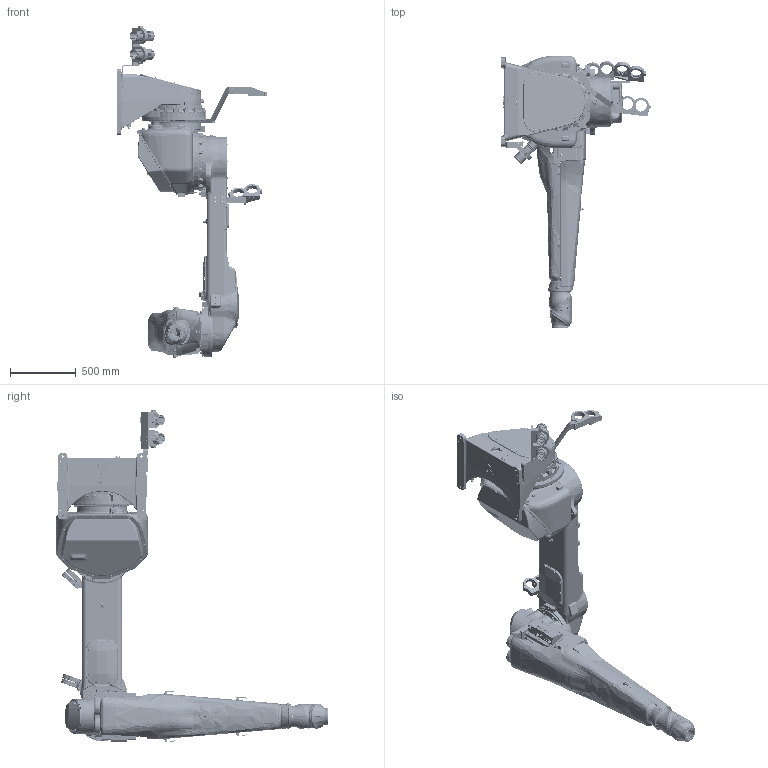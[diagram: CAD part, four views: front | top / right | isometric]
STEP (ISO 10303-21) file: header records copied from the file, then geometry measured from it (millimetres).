
FILE_DESCRIPTION (( 'STEP AP203' ), '1' );
FILE_NAME ('3HNA015450-001.STEP', '2015-04-29T12:28:33', ( 'ABB' ), ( 'ABB' ), 'SwSTEP 2.0', 'SolidWorks 2014', '' );
FILE_SCHEMA (( 'CONFIG_CONTROL_DESIGN' ));
Length unit declared in the file: millimetre
Products named in the file (120): 3HNP 00934-1; 3HNP 04680-1_M6x12; 3HNA014248-001; 3HNA015048-001; p019491; 3HNP 04720-1_M6x16; 3HNA015848-001_LEFT; 3HNA007769-001; 3HNP 04742-1_M8X45; 3HNP 04722-1_M6x25; 3HNA014328-001; 3HNA014646-001; 3HNP 04858-1_M8x10; 3HNA019763-001; 3HNA013719-001; 3HNA023104-001; 3HNA015111-001; 3HNA019794-001; 3HNA019856-001; m064551; 3HNA014264-001; 3HNA015848-001; p008311; 3HNP 04721-1_M6x20; 3HNA022614-001; 3HNA020325-001; 3HNA014686-001; 3HNA015449-001_KONFIG A; 3HNA020746-001; 3HNA014616-001; 3HNA015469-001; 3HNA008125-001; 3HNA020327-001; 3HNP 04834-1; p041951; 3HNP 04844-1_M3x5; 3HNA014783-001; 3HNA007682-001; 3HNA015869-001; 3HNA022611-001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
Assembly tree (265 placements, depth 5):
  3HNA015450-001
    3HNA015449-001_KONFIG A
      3HNA015111-001
      3HNA008125-001
      3HNA015429-001
      3HNP 04682-1_M6x20  x9
      3HNA008286-001
      M014331
      3HNA015504-001
      p001811
      3HNP 04680-1_M6x12  x3
      3HNA023104-001
      3HNA015469-001
      3HNP 04922-1  x4
      3HNP 04763-1_M10x55  x4
      3HNP 04785-1_M16x50  x12
      p002381  x4
      p002391  x4
      3HNA003308-001_M12x1,5
      3HNP 04858-1_M8x10  x4
    3HNM 13622-1
    3HNA008449-001
    3HNA015378-001
    3HNA015708-001_M16x130  x3
    M115531  x2
    3HNA015869-001
      3HNA015866-001
      M115531
      3HNP 04742-1_M8X45  x2
      3HNP 04721-1_M6x20
    3HNA015862-001
      3HNA015852-001
      M115531
      3HNP 04721-1_M6x20
      3HNP 04742-1_M8X45  x2
    3HNA015848-001_LEFT
      3HNA015843-001
      M115531
      3HNP 04721-1_M6x20
      3HNA003474-001_M12x65  x2
      p000841
    3HNA015848-001
      3HNA015843-001
      3HNA003474-001_M12x65  x2
      p000841
      M115531
      3HNP 04721-1_M6x20
    3HNA014783-001
    m068391
    p008531
    3HNP 04680-1_M6x12  x2
    3HNA015479-001  x2
      3HNA014071-001_Plugged
      p018611
      p014321
      p019491
      m064551
      p041951
    3HNA013719-001
      3HNA014234-001
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Bounding box: 1141.76 x 2073.44 x 2525.13 mm (x, y, z)
Volume: 74497789.1 mm3; surface area: 16851613.2 mm2
Topology: 419 solids, 746 shells, 18506 faces, 49502 edges, 32166 vertices
Faces by surface type: plane 6304, cylinder 4559, bspline 3150, cone 2266, torus 1877, sphere 350
Full cylindrical faces by diameter (mm): 0.6 x5, 1.7 x3, 2 x12, 2.15 x3, 2.4 x1, 2.5 x27, 2.6 x2, 2.7 x14, 3 x70, 3.1 x2, 3.2 x8, 3.3 x22, 3.5 x12, 3.8 x3, 3.9 x2, 4 x14, 4.2 x34, 4.5 x2, 4.917 x4, 5 x139, 5.2 x3, 5.5 x16, 5.9 x21, 5.99 x3, 6 x145, 6.05 x2, 6.2 x8, 6.3 x2, 6.5 x63, 6.6 x17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
Entity records: 927143 total; most frequent: CARTESIAN_POINT 603698, ORIENTED_EDGE 61187, DIRECTION 57372, EDGE_CURVE 33897, VERTEX_POINT 24106, AXIS2_PLACEMENT_3D 23174, EDGE_LOOP 18884, FACE_OUTER_BOUND 15854
